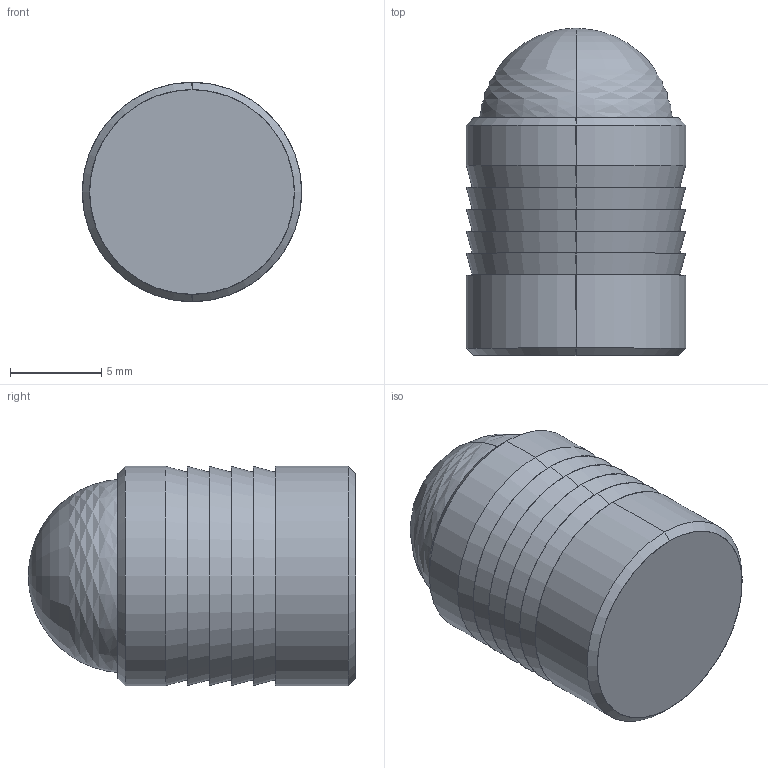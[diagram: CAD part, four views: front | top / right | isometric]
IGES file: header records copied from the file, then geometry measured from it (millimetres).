
Start section: SolidWorks IGES file using analytic representation for surfaces
Global section: file name: C:\Users\IanO\Desktop\P0190_v2\P0190_v2_20230321_IGES\P0190.120-ZP-BS.igs; native system: SolidWorks 2019; preprocessor: SolidWorks 2019; author: IanO; date: 231219.161133; units: millimetre
Bounding box: 12 x 17.9 x 12 mm (x, y, z)
Surface area: 1200.1 mm2 (no closed solid volume)
Topology: 0 solids, 0 shells, 29 faces, 504 edges, 502 vertices
Faces by surface type: revolution 22, bspline 7
